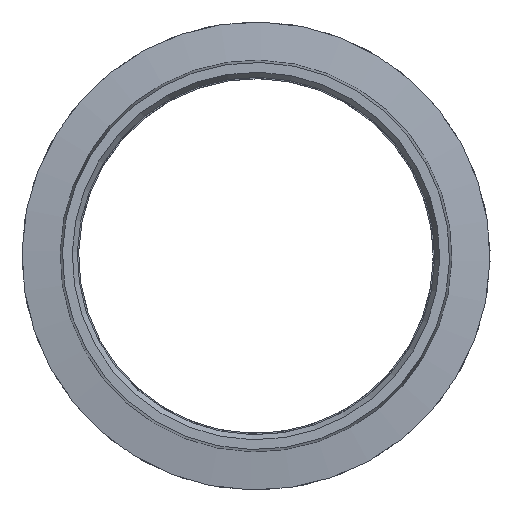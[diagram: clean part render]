
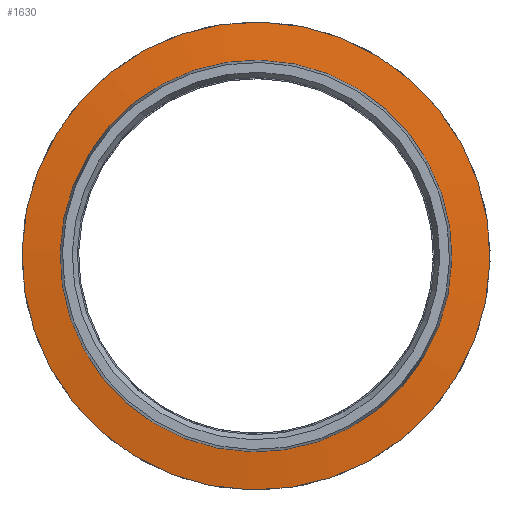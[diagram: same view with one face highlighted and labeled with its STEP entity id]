
A CAD part, left-side view. The second image highlights one B-rep face of the part: STEP entity #1630.
In plain terms, the highlighted conical face has half-angle 83 degrees and reference radius 22.466 mm.
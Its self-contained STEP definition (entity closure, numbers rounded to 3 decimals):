
#224=CONICAL_SURFACE('',#1810,22.466,1.449);
#265=FACE_OUTER_BOUND('',#374,.T.);
#374=EDGE_LOOP('',(#1226,#1227,#1228,#1229,#1230));
#446=LINE('',#7763,#463);
#463=VECTOR('',#2067,22.466);
#537=CIRCLE('',#1794,22.469);
#539=CIRCLE('',#1796,22.469);
#550=CIRCLE('',#1811,26.85);
#703=VERTEX_POINT('',#7489);
#704=VERTEX_POINT('',#7498);
#722=VERTEX_POINT('',#7761);
#902=EDGE_CURVE('',#704,#703,#537,.T.);
#905=EDGE_CURVE('',#704,#703,#539,.T.);
#931=EDGE_CURVE('',#722,#722,#550,.T.);
#932=EDGE_CURVE('',#722,#703,#446,.T.);
#1226=ORIENTED_EDGE('',*,*,#931,.F.);
#1227=ORIENTED_EDGE('',*,*,#932,.T.);
#1228=ORIENTED_EDGE('',*,*,#905,.F.);
#1229=ORIENTED_EDGE('',*,*,#902,.T.);
#1230=ORIENTED_EDGE('',*,*,#932,.F.);
#1630=ADVANCED_FACE('',(#265),#224,.T.);
#1794=AXIS2_PLACEMENT_3D('',#7499,#2030,#2031);
#1796=AXIS2_PLACEMENT_3D('',#7599,#2034,#2035);
#1810=AXIS2_PLACEMENT_3D('',#7760,#2063,#2064);
#1811=AXIS2_PLACEMENT_3D('',#7762,#2065,#2066);
#2030=DIRECTION('center_axis',(1.,0.,0.));
#2031=DIRECTION('ref_axis',(0.,-1.,0.));
#2034=DIRECTION('center_axis',(-1.,0.,0.));
#2035=DIRECTION('ref_axis',(0.,0.878,-0.479));
#2063=DIRECTION('center_axis',(1.,0.,0.));
#2064=DIRECTION('ref_axis',(0.,-0.878,0.479));
#2065=DIRECTION('center_axis',(1.,0.,0.));
#2066=DIRECTION('ref_axis',(0.,-0.878,0.479));
#2067=DIRECTION('',(-0.122,-0.871,0.476));
#7489=CARTESIAN_POINT('',(-44.351,19.718,-10.772));
#7498=CARTESIAN_POINT('',(-44.351,-19.718,10.772));
#7499=CARTESIAN_POINT('Origin',(-44.351,0.,0.));
#7599=CARTESIAN_POINT('Origin',(-44.351,0.,
0.));
#7760=CARTESIAN_POINT('Origin',(-44.351,0.,0.));
#7761=CARTESIAN_POINT('',(-43.813,23.563,-12.873));
#7762=CARTESIAN_POINT('Origin',(-43.813,0.,0.));
#7763=CARTESIAN_POINT('',(-44.351,19.716,-10.771));
